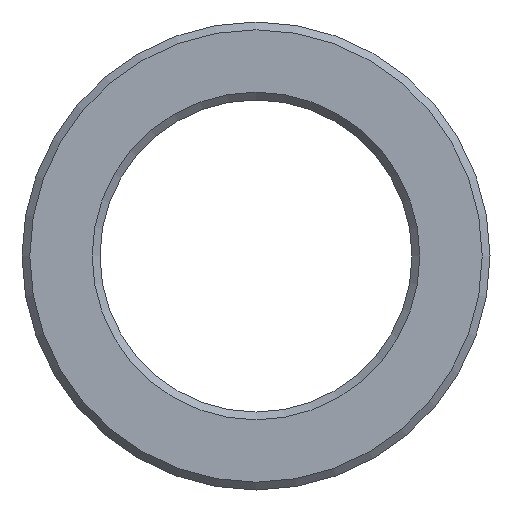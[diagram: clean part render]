
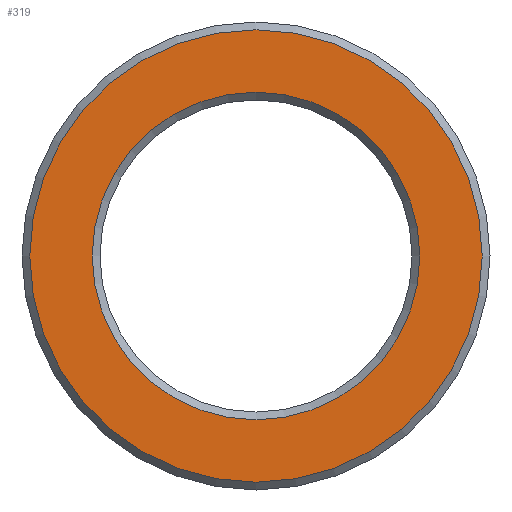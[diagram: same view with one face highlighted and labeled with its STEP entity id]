
A CAD part, left-side view. The second image highlights one B-rep face of the part: STEP entity #319.
In plain terms, the highlighted planar face has unit normal (-1, 0, 0).
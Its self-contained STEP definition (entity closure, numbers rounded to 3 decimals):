
#277=CARTESIAN_POINT('',(-32.5,14.5,0.));
#278=VERTEX_POINT('',#277);
#279=CARTESIAN_POINT('',(-32.5,0.0,0.0));
#280=DIRECTION('',(1.0,0.0,0.0));
#281=DIRECTION('',(0.0,-1.0,0.0));
#282=AXIS2_PLACEMENT_3D('',#279,#280,#281);
#283=CIRCLE('',#282,14.5);
#284=EDGE_CURVE('',#278,#278,#283,.T.);
#300=CARTESIAN_POINT('',(-32.5,12.5,0.0));
#301=DIRECTION('',(-1.0,0.0,0.0));
#302=DIRECTION('',(0.0,0.0,1.0));
#303=AXIS2_PLACEMENT_3D('',#300,#301,#302);
#304=PLANE('',#303);
#305=ORIENTED_EDGE('',*,*,#284,.F.);
#306=EDGE_LOOP('',(#305));
#307=FACE_OUTER_BOUND('',#306,.T.);
#308=CARTESIAN_POINT('',(-32.5,10.5,0.));
#309=VERTEX_POINT('',#308);
#310=CARTESIAN_POINT('',(-32.5,0.0,0.0));
#311=DIRECTION('',(-1.0,0.0,0.0));
#312=DIRECTION('',(0.0,-1.0,0.0));
#313=AXIS2_PLACEMENT_3D('',#310,#311,#312);
#314=CIRCLE('',#313,10.5);
#315=EDGE_CURVE('',#309,#309,#314,.T.);
#316=ORIENTED_EDGE('',*,*,#315,.F.);
#317=EDGE_LOOP('',(#316));
#318=FACE_BOUND('',#317,.T.);
#319=ADVANCED_FACE('',(#307,#318),#304,.T.);
